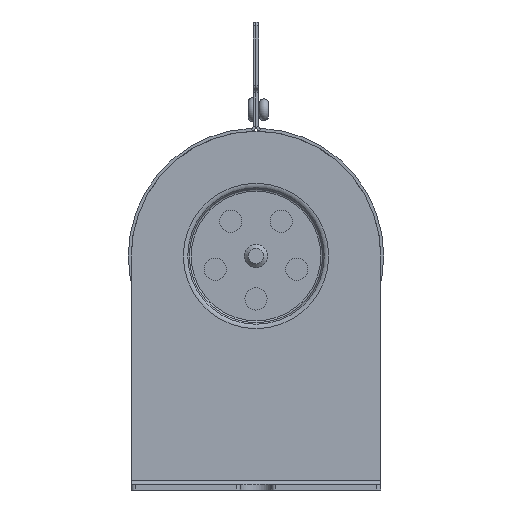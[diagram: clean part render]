
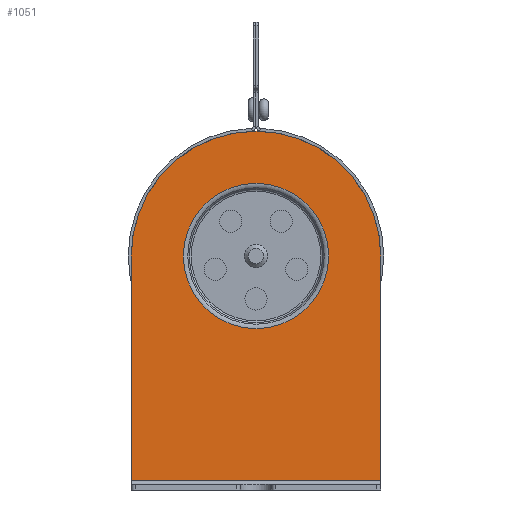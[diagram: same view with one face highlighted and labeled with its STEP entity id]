
A CAD part, left-side view. The second image highlights one B-rep face of the part: STEP entity #1051.
In plain terms, the highlighted planar face has unit normal (-1, 0, 0) as drawn and (1, 0, 0) by its records, which use the part's own axes.
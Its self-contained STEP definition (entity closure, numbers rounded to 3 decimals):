
#1051=ADVANCED_FACE('',(#1913,#1915),#1917,.T.);
#1913=FACE_BOUND('',#1914,.T.);
#1914=EDGE_LOOP('',(#3102,#3103,#3104,#3105));
#1915=FACE_BOUND('',#1916,.T.);
#1916=EDGE_LOOP('',(#3106));
#1917=PLANE('',#1918);
#1918=AXIS2_PLACEMENT_3D('',#1919,#1920,#1921);
#1919=CARTESIAN_POINT('',(1.5,0.,0.));
#1920=DIRECTION('',(1.,0.,0.));
#1921=DIRECTION('',(0.,1.,0.));
#3102=ORIENTED_EDGE('',*,*,#3746,.T.);
#3103=ORIENTED_EDGE('',*,*,#3747,.T.);
#3104=ORIENTED_EDGE('',*,*,#3748,.T.);
#3105=ORIENTED_EDGE('',*,*,#3749,.T.);
#3106=ORIENTED_EDGE('',*,*,#3744,.F.);
#3744=EDGE_CURVE('',#4105,#4105,#4106,.T.);
#3746=EDGE_CURVE('',#4109,#4110,#4111,.T.);
#3747=EDGE_CURVE('',#4110,#4112,#4113,.T.);
#3748=EDGE_CURVE('',#4112,#4114,#4115,.T.);
#3749=EDGE_CURVE('',#4114,#4109,#4116,.T.);
#4105=VERTEX_POINT('',#4745);
#4106=CIRCLE('',#4746,18.64);
#4109=VERTEX_POINT('',#4755);
#4110=VERTEX_POINT('',#4756);
#4111=LINE('',#4757,#4758);
#4112=VERTEX_POINT('',#4760);
#4113=LINE('',#4761,#4762);
#4114=VERTEX_POINT('',#4764);
#4115=CIRCLE('',#4765,32.);
#4116=LINE('',#4769,#4770);
#4745=CARTESIAN_POINT('',(1.5,18.64,14.5));
#4746=AXIS2_PLACEMENT_3D('',#4747,#4748,#4749);
#4747=CARTESIAN_POINT('',(1.5,0.,14.5));
#4748=DIRECTION('',(1.,0.,0.));
#4749=DIRECTION('',(0.,1.,0.));
#4755=CARTESIAN_POINT('',(1.5,-32.,-43.));
#4756=CARTESIAN_POINT('',(1.5,32.,-43.));
#4757=CARTESIAN_POINT('',(1.5,-32.,-43.));
#4758=VECTOR('',#4759,1.);
#4759=DIRECTION('',(0.,1.,0.));
#4760=CARTESIAN_POINT('',(1.5,32.,14.5));
#4761=CARTESIAN_POINT('',(1.5,32.,-43.));
#4762=VECTOR('',#4763,1.);
#4763=DIRECTION('',(0.,0.,1.));
#4764=CARTESIAN_POINT('',(1.5,-32.,14.5));
#4765=AXIS2_PLACEMENT_3D('',#4766,#4767,#4768);
#4766=CARTESIAN_POINT('',(1.5,0.,14.5));
#4767=DIRECTION('',(1.,0.,0.));
#4768=DIRECTION('',(0.,1.,0.));
#4769=CARTESIAN_POINT('',(1.5,-32.,14.5));
#4770=VECTOR('',#4771,1.);
#4771=DIRECTION('',(0.,0.,-1.));
